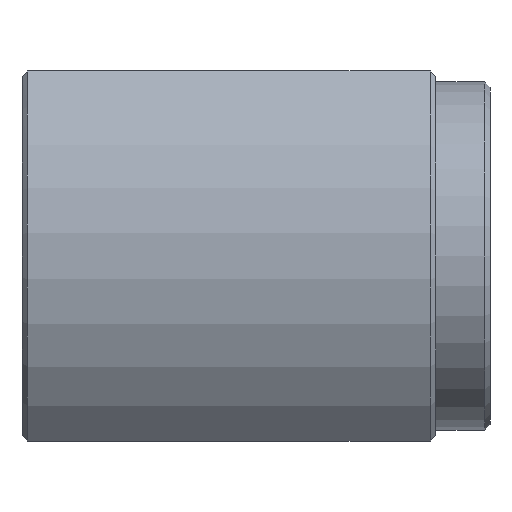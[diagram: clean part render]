
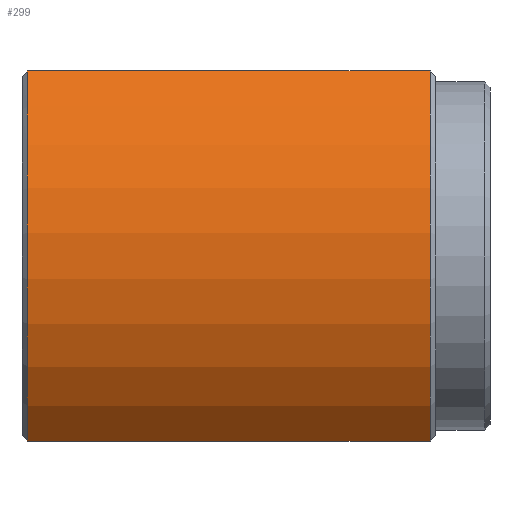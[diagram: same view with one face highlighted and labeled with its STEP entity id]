
A CAD part, front view. The second image highlights one B-rep face of the part: STEP entity #299.
In plain terms, the highlighted cylindrical face has radius 24 mm (diameter 48 mm), a partial arc.
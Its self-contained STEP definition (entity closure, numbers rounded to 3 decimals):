
#128=CARTESIAN_POINT('',(0.5,-16.941,-17.0));
#129=VERTEX_POINT('',#128);
#137=CARTESIAN_POINT('',(0.5,-16.941,17.0));
#138=VERTEX_POINT('',#137);
#139=CARTESIAN_POINT('',(0.5,0.0,0.0));
#140=DIRECTION('',(-1.0,0.0,0.0));
#141=DIRECTION('',(0.0,-1.0,0.0));
#142=AXIS2_PLACEMENT_3D('',#139,#140,#141);
#143=CIRCLE('',#142,24.);
#144=EDGE_CURVE('',#129,#138,#143,.T.);
#250=CARTESIAN_POINT('',(37.5,-16.941,17.0));
#251=VERTEX_POINT('',#250);
#252=CARTESIAN_POINT('',(0.5,-16.941,17.0));
#253=DIRECTION('',(1.0,0.0,0.0));
#254=VECTOR('',#253,37.);
#255=LINE('',#252,#254);
#256=EDGE_CURVE('',#138,#251,#255,.T.);
#275=CARTESIAN_POINT('',(0.0,0.0,0.0));
#276=DIRECTION('',(1.0,0.0,0.0));
#277=DIRECTION('',(0.0,1.0,0.0));
#278=AXIS2_PLACEMENT_3D('',#275,#276,#277);
#279=CYLINDRICAL_SURFACE('',#278,24.);
#280=ORIENTED_EDGE('',*,*,#144,.F.);
#281=CARTESIAN_POINT('',(37.5,-16.941,-17.0));
#282=VERTEX_POINT('',#281);
#283=CARTESIAN_POINT('',(0.5,-16.941,-17.0));
#284=DIRECTION('',(1.0,0.0,0.0));
#285=VECTOR('',#284,37.);
#286=LINE('',#283,#285);
#287=EDGE_CURVE('',#129,#282,#286,.T.);
#288=ORIENTED_EDGE('',*,*,#287,.T.);
#289=CARTESIAN_POINT('',(37.5,0.0,0.0));
#290=DIRECTION('',(1.0,0.0,0.0));
#291=DIRECTION('',(0.0,-1.0,0.0));
#292=AXIS2_PLACEMENT_3D('',#289,#290,#291);
#293=CIRCLE('',#292,24.);
#294=EDGE_CURVE('',#251,#282,#293,.T.);
#295=ORIENTED_EDGE('',*,*,#294,.F.);
#296=ORIENTED_EDGE('',*,*,#256,.F.);
#297=EDGE_LOOP('',(#280,#288,#295,#296));
#298=FACE_OUTER_BOUND('',#297,.T.);
#299=ADVANCED_FACE('',(#298),#279,.T.);
